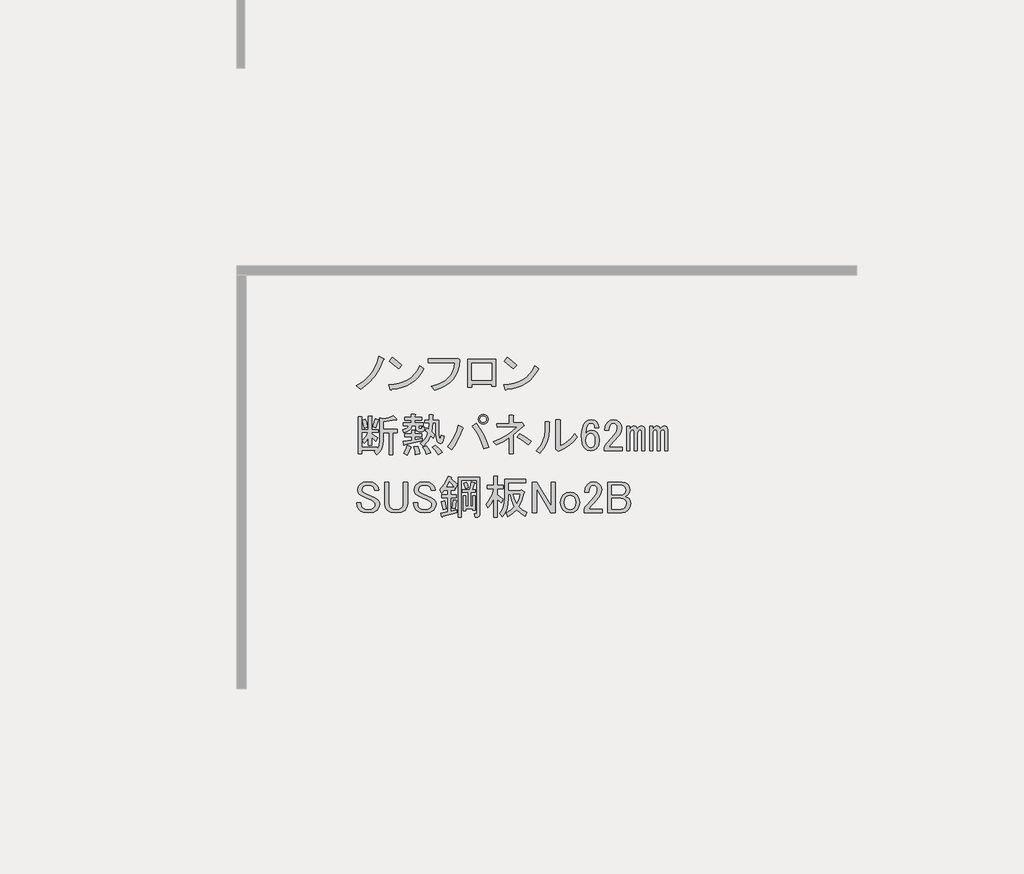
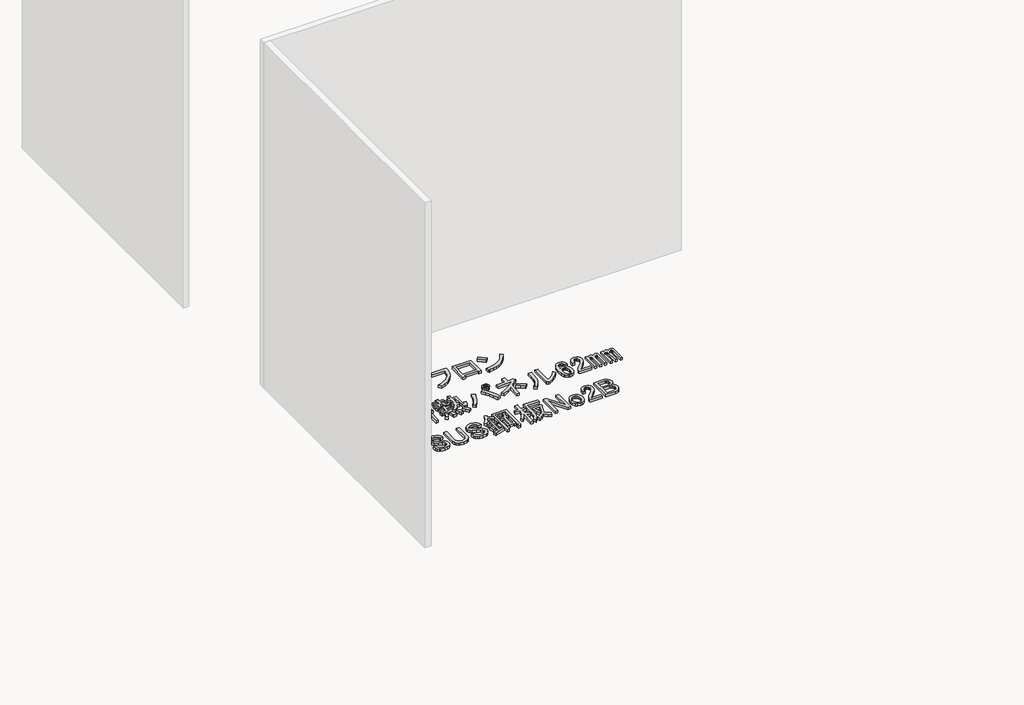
# One storey, part 86 of 117: 1 proxy.
"""IFC4 building model written with IfcOpenShell, lengths in millimetres."""

from ifc_helpers import new_model, si_unit, frame, origin, place, context, project, spatial, polyline, outline, extrude, element, save

model = new_model("IFC4")

# Units and contexts
model_context = context("Model", 3, world=origin())
ifc_project = project(units=[si_unit("LENGTHUNIT", "METRE", prefix="MILLI")], contexts=[model_context])

# Site, building, storey
site = spatial("IfcSite", under=ifc_project)
building = spatial("IfcBuilding", under=site)
storey = spatial("IfcBuildingStorey", under=building, Name="レベル 1", Elevation=500.0)

# Proxy
placement = place(None, origin())
element("IfcBuildingElementProxy", 1, Name="200㎜\u3000MS Pゴシック", ObjectType="200㎜\u3000MS Pゴシック", at=placement, inside=storey, context=model_context, shape_type="SweptSolid", body=[
    extrude(outline(polyline([(8943.6706985, 3392.9503118), (8918.0952502, 3333.1784775), (8889.646156, 3287.2001434), (8847.9782907, 3241.7965385), (8798.8389462, 3204.439142), (8771.2519457, 3226.2788507), (8818.9544673, 3256.7394971), (8858.6107805, 3295.2463519), (8875.9963381, 3319.1694538), (8891.3703435, 3347.2593423), (8904.7327969, 3379.5160173), (8916.0836981, 3415.9394788), (8947.1190736, 3402.1459786), (8950.2800841, 3397.5481452), (8943.6706985, 3392.9503118)])), frame((0.0, 0.0, 500.0), z_axis=(0.0, 0.0, 1.0), x_axis=(1.0, 0.0, 0.0)), (0.0, 0.0, 1.0), 25.0),
    extrude(outline(polyline([(9043.3977052, 3337.7763109), (8984.7753292, 3384.9041033), (9004.3161212, 3409.0427287), (9031.6157571, 3389.2145721), (9065.2374138, 3359.6160196), (9043.3977052, 3337.7763109)])), frame((0.0, 0.0, 500.0), z_axis=(0.0, 0.0, 1.0), x_axis=(1.0, 0.0, 0.0)), (0.0, 0.0, 1.0), 25.0),
    extrude(outline(polyline([(9205.4713328, 3337.7763109), (9188.947869, 3308.034076), (9169.8381239, 3282.0275808), (9148.1420975, 3259.7568252), (9123.8597898, 3241.2218093), (9096.9912008, 3226.422533), (9067.5363306, 3215.3589964), (9035.495179, 3208.0311994), (9000.8677461, 3204.439142), (8995.1204544, 3196.3929336), (8989.3731626, 3202.1402253), (8980.1774958, 3232.0261425), (9016.0082679, 3234.7022252), (9048.7857912, 3241.0062859), (9078.5100658, 3250.9383244), (9105.1810916, 3264.4983409), (9128.7988687, 3281.6863354), (9149.363397, 3302.5023077), (9166.8746766, 3326.946258), (9181.3327074, 3355.0181862), (9205.4713328, 3337.7763109)])), frame((0.0, 0.0, 500.0), z_axis=(0.0, 0.0, 1.0), x_axis=(1.0, 0.0, 0.0)), (0.0, 0.0, 1.0), 25.0),
    extrude(outline(polyline([(9256.2314136, 3222.8304757), (9290.014713, 3232.5110702), (9319.5234641, 3244.8857078), (9344.757667, 3259.9543884), (9365.7173217, 3277.717112), (9382.402428, 3298.1738786), (9394.8129862, 3321.3246882), (9402.9489961, 3347.1695409), (9406.8104577, 3375.7084365), (9234.3917049, 3375.7084365), (9234.3917049, 3400.9965202), (9409.1093744, 3400.9965202), (9425.2017914, 3404.4448953), (9437.8458332, 3392.9503118), (9434.325617, 3356.4550091), (9426.0638851, 3323.4080815), (9413.0606375, 3293.8095289), (9395.3158742, 3267.6593514), (9372.8295952, 3244.957549), (9345.6018005, 3225.7041216), (9313.6324901, 3209.8990692), (9276.921664, 3197.5423919), (9256.2314136, 3222.8304757)])), frame((0.0, 0.0, 500.0), z_axis=(0.0, 0.0, 1.0), x_axis=(1.0, 0.0, 0.0)), (0.0, 0.0, 1.0), 25.0),
    extrude(outline(polyline([(9670.955987, 3223.979934), (9644.5184449, 3223.979934), (9644.5184449, 3236.6239759), (9516.9285679, 3236.6239759), (9516.9285679, 3218.2326423), (9490.4910258, 3218.2326423), (9490.4910258, 3397.5481452), (9670.955987, 3397.5481452), (9670.955987, 3223.979934)]), holes=[polyline([(9516.9285679, 3372.2600614), (9516.9285679, 3261.9120596), (9644.5184449, 3261.9120596), (9644.5184449, 3372.2600614), (9516.9285679, 3372.2600614)])]), frame((0.0, 0.0, 500.0), z_axis=(0.0, 0.0, 1.0), x_axis=(1.0, 0.0, 0.0)), (0.0, 0.0, 1.0), 25.0),
    extrude(outline(polyline([(9947.0099049, 3337.7763109), (9930.4864411, 3308.034076), (9911.376696, 3282.0275808), (9889.6806696, 3259.7568252), (9865.3983619, 3241.2218093), (9838.5297729, 3226.422533), (9809.0749026, 3215.3589964), (9777.0337511, 3208.0311994), (9742.4063182, 3204.439142), (9736.6590264, 3196.3929336), (9730.9117347, 3202.1402253), (9721.7160679, 3232.0261425), (9757.5468399, 3234.7022252), (9790.3243633, 3241.0062859), (9820.0486378, 3250.9383244), (9846.7196637, 3264.4983409), (9870.3374407, 3281.6863354), (9890.9019691, 3302.5023077), (9908.4132486, 3326.946258), (9922.8712795, 3355.0181862), (9947.0099049, 3337.7763109)])), frame((0.0, 0.0, 500.0), z_axis=(0.0, 0.0, 1.0), x_axis=(1.0, 0.0, 0.0)), (0.0, 0.0, 1.0), 25.0),
    extrude(outline(polyline([(9784.9362772, 3337.7763109), (9726.3139013, 3384.9041033), (9745.8546933, 3409.0427287), (9773.1543291, 3389.2145721), (9806.7759859, 3359.6160196), (9784.9362772, 3337.7763109)])), frame((0.0, 0.0, 500.0), z_axis=(0.0, 0.0, 1.0), x_axis=(1.0, 0.0, 0.0)), (0.0, 0.0, 1.0), 25.0),
    extrude(outline(polyline([(8877.0021141, 2960.7654779), (8894.2439894, 3013.6405621), (8914.9342397, 3007.8932704), (8916.6584273, 3004.7322599), (8912.635323, 3002.1459786), (8895.3934478, 2953.8687278), (8877.0021141, 2960.7654779)])), frame((0.0, 0.0, 500.0), z_axis=(0.0, 0.0, 1.0), x_axis=(1.0, 0.0, 0.0)), (0.0, 0.0, 1.0), 25.0),
    extrude(outline(polyline([(9031.0295333, 3009.0427287), (9029.3053458, 3004.4448953), (9021.8338665, 3006.743812), (8944.8201569, 2994.0997701), (8944.8201569, 2944.673061), (9036.7768251, 2944.673061), (9036.7768251, 2922.8333523), (9005.7414495, 2922.8333523), (9005.7414495, 2782.5994334), (8982.7522825, 2782.5994334), (8982.7522825, 2922.8333523), (8944.8201569, 2922.8333523), (8944.8201569, 2873.4066432), (8942.2338756, 2845.6041193), (8934.4750317, 2820.8189236), (8921.5436253, 2799.051056), (8903.4396562, 2780.3005167), (8886.1977809, 2799.8413086), (8896.5429061, 2809.0369755), (8806.8851546, 2809.0369755), (8806.8851546, 2787.1972668), (8783.8959876, 2787.1972668), (8783.8959876, 3026.284604), (8805.7356963, 3026.284604), (8810.6208943, 3023.9856873), (8806.8851546, 3019.3878539), (8806.8851546, 2943.5236026), (8849.4151137, 2943.5236026), (8849.4151137, 3030.8824374), (8867.8064473, 3030.8824374), (8872.6916453, 3028.5835207), (8868.9559057, 3023.9856873), (8868.9559057, 2943.5236026), (8912.635323, 2943.5236026), (8912.635323, 2925.132269), (8868.9559057, 2925.132269), (8868.9559057, 2915.9366022), (8909.186948, 2889.4990601), (8895.3934478, 2867.6593514), (8868.9559057, 2894.0968935), (8868.9559057, 2841.2218093), (8849.4151137, 2841.2218093), (8849.4151137, 2889.4990601), (8836.1963426, 2869.6709035), (8821.8281132, 2853.8658512), (8809.1840713, 2872.2571848), (8831.02378, 2896.3958102), (8848.2656553, 2925.132269), (8806.8851546, 2925.132269), (8806.8851546, 2830.8766841), (8904.5891146, 2830.8766841), (8904.5891146, 2817.0831839), (8917.520521, 2841.2218093), (8921.8309898, 2874.5561015), (8921.8309898, 3019.3878539), (8943.6706985, 3013.6405621), (8979.8786366, 3021.1120414), (9010.339283, 3034.3308125), (9031.0295333, 3009.0427287)])), frame((0.0, 0.0, 500.0), z_axis=(0.0, 0.0, 1.0), x_axis=(1.0, 0.0, 0.0)), (0.0, 0.0, 1.0), 25.0),
    extrude(outline(polyline([(8822.9775716, 2952.7192695), (8810.3335297, 3003.2954369), (8829.8743217, 3010.1921871), (8837.6331656, 2986.0535617), (8842.5183636, 2959.6160196), (8822.9775716, 2952.7192695)])), frame((0.0, 0.0, 500.0), z_axis=(0.0, 0.0, 1.0), x_axis=(1.0, 0.0, 0.0)), (0.0, 0.0, 1.0), 25.0),
    extrude(outline(polyline([(9121.8367431, 2832.0261425), (9125.2851182, 2827.1409445), (9119.5378264, 2823.979934), (9109.7674304, 2798.4044857), (9098.8475761, 2779.1510583), (9075.858409, 2790.6456418), (9088.5024509, 2814.209538), (9098.8475761, 2841.2218093), (9121.8367431, 2832.0261425)])), frame((0.0, 0.0, 500.0), z_axis=(0.0, 0.0, 1.0), x_axis=(1.0, 0.0, 0.0)), (0.0, 0.0, 1.0), 25.0),
    extrude(outline(polyline([(9166.6656188, 2836.6239759), (9176.7233794, 2809.32434), (9181.6085774, 2787.1972668), (9152.8721186, 2781.449975), (9150.2858373, 2803.0023191), (9142.5269934, 2833.1756008), (9166.6656188, 2836.6239759)])), frame((0.0, 0.0, 500.0), z_axis=(0.0, 0.0, 1.0), x_axis=(1.0, 0.0, 0.0)), (0.0, 0.0, 1.0), 25.0),
    extrude(outline(polyline([(9281.611454, 2842.3712677), (9306.3248086, 2821.1062881), (9325.2908714, 2796.3929336), (9298.8533293, 2781.449975), (9279.5999019, 2811.0485276), (9260.9212037, 2830.8766841), (9281.611454, 2842.3712677)])), frame((0.0, 0.0, 500.0), z_axis=(0.0, 0.0, 1.0), x_axis=(1.0, 0.0, 0.0)), (0.0, 0.0, 1.0), 25.0),
    extrude(outline(polyline([(9222.9890781, 2783.7488917), (9214.655505, 2808.4622463), (9201.1493694, 2829.7272258), (9221.8396197, 2837.7734343), (9238.7941304, 2816.2210902), (9250.5760785, 2792.9445585), (9222.9890781, 2783.7488917)])), frame((0.0, 0.0, 500.0), z_axis=(0.0, 0.0, 1.0), x_axis=(1.0, 0.0, 0.0)), (0.0, 0.0, 1.0), 25.0),
    extrude(outline(polyline([(9083.9046175, 2846.9691011), (9081.8930654, 2842.0839031), (9078.1573257, 2843.520726), (9072.410034, 2867.6593514), (9127.5840349, 2875.7055599), (9127.5840349, 2898.6947269), (9083.9046175, 2898.6947269), (9083.9046175, 2917.0860605), (9127.5840349, 2917.0860605), (9127.5840349, 2940.0752276), (9145.9753685, 2940.0752276), (9150.8605665, 2937.7763109), (9147.1248268, 2933.1784775), (9147.1248268, 2917.0860605), (9191.9537026, 2917.0860605), (9191.9537026, 2898.6947269), (9147.1248268, 2898.6947269), (9147.1248268, 2879.1539349), (9197.7009943, 2888.3496017), (9197.7009943, 2872.2571848), (9083.9046175, 2846.9691011)])), frame((0.0, 0.0, 500.0), z_axis=(0.0, 0.0, 1.0), x_axis=(1.0, 0.0, 0.0)), (0.0, 0.0, 1.0), 25.0),
    extrude(outline(polyline([(9154.021577, 2968.8116864), (9128.7334932, 2968.8116864), (9124.1356598, 2951.3542877), (9113.7905346, 2938.0636755), (9097.6981177, 2928.9398498), (9075.858409, 2923.9828107), (9071.2605756, 2943.5236026), (9096.5486594, 2952.1445403), (9104.0201386, 2959.4723373), (9108.0432429, 2968.8116864), (9072.410034, 2968.8116864), (9072.410034, 2987.20302), (9126.4345765, 2987.20302), (9126.4345765, 3004.4448953), (9082.7551591, 3004.4448953), (9082.7551591, 3022.8362289), (9126.4345765, 3022.8362289), (9126.4345765, 3041.2275626), (9148.2742852, 3041.2275626), (9153.1594832, 3038.9286459), (9149.4237436, 3034.3308125), (9149.4237436, 3022.8362289), (9191.9537026, 3022.8362289), (9191.9537026, 3004.4448953), (9149.4237436, 3004.4448953), (9149.4237436, 2987.20302), (9202.2988277, 2987.20302), (9202.2988277, 2968.8116864), (9173.5623689, 2968.8116864), (9173.5623689, 2956.1676445), (9174.9991919, 2950.9950819), (9179.3096607, 2949.2708944), (9189.6547859, 2949.2708944), (9193.3905255, 2952.4319049), (9193.1031609, 2961.9149363), (9212.6439529, 2959.6160196), (9209.770307, 2938.0636755), (9204.4540622, 2932.6755894), (9196.551536, 2930.8795608), (9172.4129106, 2930.8795608), (9158.6194104, 2935.7647588), (9154.021577, 2950.4203528), (9154.021577, 2968.8116864)])), frame((0.0, 0.0, 500.0), z_axis=(0.0, 0.0, 1.0), x_axis=(1.0, 0.0, 0.0)), (0.0, 0.0, 1.0), 25.0),
    extrude(outline(polyline([(9285.0598291, 2986.0535617), (9263.2201204, 2986.0535617), (9258.622287, 2928.5806441), (9278.163079, 2910.1893104), (9267.8179538, 2888.3496017), (9251.7255369, 2904.4420187), (9232.4721095, 2866.7972576), (9202.2988277, 2834.3250592), (9185.0569525, 2855.0153095), (9200.1435933, 2866.9409399), (9213.2186821, 2882.0275808), (9224.2822187, 2900.2752321), (9233.3342033, 2921.683894), (9216.092328, 2936.6268525), (9224.1385364, 2953.8687278), (9237.9320367, 2943.5236026), (9240.2309534, 2986.0535617), (9212.6439529, 2986.0535617), (9212.6439529, 3004.4448953), (9240.2309534, 3004.4448953), (9240.2309534, 3038.9286459), (9262.0706621, 3038.9286459), (9266.95586, 3036.6297292), (9263.2201204, 3032.0318957), (9263.2201204, 3004.4448953), (9304.6006211, 3004.4448953), (9304.6006211, 2907.8903937), (9308.0489961, 2883.7517683), (9311.2818477, 2881.7402162), (9314.0836525, 2884.9012267), (9318.3941213, 2906.7409354), (9337.9349133, 2899.8441853), (9333.408921, 2873.0474374), (9325.578236, 2857.0268616), (9314.4428582, 2851.7824579), (9300.0027877, 2857.3142262), (9293.4652433, 2864.6420232), (9288.7955687, 2876.280289), (9285.0598291, 2912.4882271), (9285.0598291, 2986.0535617)])), frame((0.0, 0.0, 500.0), z_axis=(0.0, 0.0, 1.0), x_axis=(1.0, 0.0, 0.0)), (0.0, 0.0, 1.0), 25.0),
    extrude(outline(polyline([(9543.6879583, 2983.754645), (9570.3410238, 2947.0438188), (9592.8273029, 2909.3272167), (9611.1467953, 2870.6048384), (9625.2995013, 2830.8766841), (9594.2641258, 2820.531559), (9578.8182792, 2863.6362472), (9561.2171982, 2902.143102), (9541.4608827, 2936.0521234), (9519.5493329, 2965.3633113), (9543.6879583, 2983.754645)])), frame((0.0, 0.0, 500.0), z_axis=(0.0, 0.0, 1.0), x_axis=(1.0, 0.0, 0.0)), (0.0, 0.0, 1.0), 25.0),
    extrude(outline(polyline([(9456.3291235, 2957.3171029), (9460.3522278, 2951.8571757), (9454.0302068, 2946.9719777), (9442.1045764, 2911.5542922), (9427.0179356, 2877.717112), (9408.7702842, 2845.460437), (9387.3616224, 2814.7842672), (9360.9240803, 2832.0261425), (9384.1287708, 2863.4925649), (9403.1666748, 2896.9705394), (9418.0377922, 2932.460066), (9428.7421231, 2969.9611447), (9456.3291235, 2957.3171029)])), frame((0.0, 0.0, 500.0), z_axis=(0.0, 0.0, 1.0), x_axis=(1.0, 0.0, 0.0)), (0.0, 0.0, 1.0), 25.0),
    extrude(outline(polyline([(9589.6662924, 2978.0073532), (9577.0222505, 2980.3062699), (9566.6771253, 2987.20302), (9559.7803752, 2997.5481452), (9557.4814585, 3010.1921871), (9559.7803752, 3022.8362289), (9566.6771253, 3033.1813541), (9577.0222505, 3040.0781042), (9589.6662924, 3042.3770209), (9602.3103343, 3040.0781042), (9612.6554594, 3033.1813541), (9619.5522095, 3022.8362289), (9621.8511262, 3010.1921871), (9619.5522095, 2997.5481452), (9612.6554594, 2987.20302), (9602.3103343, 2980.3062699), (9589.6662924, 2978.0073532)]), holes=[polyline([(9589.6662924, 2989.5019367), (9597.9998654, 2990.9387597), (9604.609251, 2995.2492285), (9608.9197198, 3001.858614), (9610.3565427, 3010.1921871), (9608.9197198, 3018.5257601), (9604.609251, 3025.1351456), (9597.9998654, 3029.4456145), (9589.6662924, 3030.8824374), (9581.3327193, 3029.4456145), (9574.7233338, 3025.1351456), (9570.412865, 3018.5257601), (9568.976042, 3010.1921871), (9570.412865, 3001.858614), (9574.7233338, 2995.2492285), (9581.3327193, 2990.9387597), (9589.6662924, 2989.5019367)])]), frame((0.0, 0.0, 500.0), z_axis=(0.0, 0.0, 1.0), x_axis=(1.0, 0.0, 0.0)), (0.0, 0.0, 1.0), 25.0),
    extrude(outline(polyline([(9879.3297971, 2844.6701844), (9842.2597652, 2873.9813723), (9809.2128376, 2895.2463519), (9826.4547129, 2917.0860605), (9865.2489323, 2893.8095289), (9898.8705891, 2867.6593514), (9879.3297971, 2844.6701844)])), frame((0.0, 0.0, 500.0), z_axis=(0.0, 0.0, 1.0), x_axis=(1.0, 0.0, 0.0)), (0.0, 0.0, 1.0), 25.0),
    extrude(outline(polyline([(9833.351463, 2988.3524784), (9840.2482131, 2990.6513951), (9852.892255, 2973.4095198), (9854.0417134, 2967.3748634), (9848.2944216, 2965.3633113), (9785.0742122, 2909.0398521), (9785.0742122, 2788.3467251), (9758.6366701, 2788.3467251), (9758.6366701, 2890.6485184), (9718.4056278, 2866.5098931), (9673.5767521, 2844.6701844), (9654.0359601, 2865.3604347), (9699.5832473, 2884.8293855), (9740.8200657, 2907.6030291), (9777.7464152, 2933.6813655), (9810.362296, 2963.0643946), (9680.4735022, 2957.3171029), (9677.0251271, 2982.6051866), (9758.6366701, 2984.9041033), (9758.6366701, 3036.6297292), (9781.6258372, 3036.6297292), (9787.6604935, 3033.1813541), (9785.0742122, 3027.4340623), (9785.0742122, 2986.0535617), (9833.351463, 2988.3524784)])), frame((0.0, 0.0, 500.0), z_axis=(0.0, 0.0, 1.0), x_axis=(1.0, 0.0, 0.0)), (0.0, 0.0, 1.0), 25.0),
    extrude(outline(polyline([(9932.296838, 2806.7380587), (9957.4412394, 2835.9774056), (9975.4015262, 2868.5214452), (9986.1776982, 2904.3701775), (9989.7697556, 2943.5236026), (9989.7697556, 2995.2492285), (10013.908381, 2995.2492285), (10019.6556727, 2991.8008534), (10016.2072977, 2986.0535617), (10016.2072977, 2944.673061), (10012.3997169, 2898.9102504), (10000.9769745, 2858.17632), (9981.9390705, 2822.4712699), (9955.286005, 2791.7951002), (9932.296838, 2806.7380587)])), frame((0.0, 0.0, 500.0), z_axis=(0.0, 0.0, 1.0), x_axis=(1.0, 0.0, 0.0)), (0.0, 0.0, 1.0), 25.0),
    extrude(outline(polyline([(10086.3242571, 2837.7734343), (10111.1094529, 2849.9864292), (10134.8888725, 2867.0846222), (10157.6625161, 2889.0680132), (10179.4303837, 2915.9366022), (10195.5228006, 2894.0968935), (10172.246269, 2866.2943696), (10146.0960914, 2842.6586322), (10117.0722681, 2823.1896814), (10085.1747988, 2807.8875171), (10075.979132, 2803.2896837), (10057.5877983, 2817.0831839), (10059.886715, 2822.8304757), (10059.886715, 3007.8932704), (10084.0253404, 3007.8932704), (10089.7726322, 3004.4448953), (10086.3242571, 2998.6976035), (10086.3242571, 2837.7734343)])), frame((0.0, 0.0, 500.0), z_axis=(0.0, 0.0, 1.0), x_axis=(1.0, 0.0, 0.0)), (0.0, 0.0, 1.0), 25.0),
    extrude(outline(polyline([(10224.2592594, 2902.143102), (10225.9834469, 2931.5261311), (10231.1560095, 2956.4550091), (10239.7769471, 2976.929736), (10251.8462598, 2992.9503118), (10267.3639476, 3003.2954369), (10286.3300104, 3006.743812), (10306.158167, 3003.2954369), (10321.9632193, 2992.9503118), (10333.1704382, 2975.9958011), (10336.9061779, 2955.0181862), (10310.4686358, 2955.0181862), (10308.7444483, 2968.8116864), (10303.5718857, 2978.0073532), (10295.8130418, 2983.1799158), (10286.3300104, 2984.9041033), (10276.846979, 2983.1799158), (10269.0881351, 2978.0073532), (10261.0419266, 2967.0874989), (10255.2946349, 2952.7192695), (10250.6968015, 2913.6376855), (10262.191385, 2928.5806441), (10273.6859685, 2936.3394879), (10287.4794687, 2938.9257692), (10306.4455316, 2935.4773942), (10321.9632193, 2925.132269), (10334.8946258, 2903.5799249), (10339.2050946, 2873.4066432), (10334.6072612, 2842.0839031), (10320.813761, 2819.3821006), (10304.4339794, 2809.0369755), (10282.8816353, 2805.5886004), (10263.0534788, 2809.8990692), (10244.9495097, 2822.8304757), (10235.8975252, 2835.5463587), (10229.431822, 2853.0037574), (10224.2592594, 2902.143102)]), holes=[polyline([(10285.180552, 2918.2355189), (10274.5480623, 2916.2239668), (10265.6397601, 2910.1893104), (10256.1567286, 2895.2463519), (10252.9957182, 2875.7055599), (10256.4440932, 2851.5669345), (10266.7892184, 2834.3250592), (10275.1227915, 2828.2904028), (10284.0310937, 2826.2788507), (10293.5141251, 2828.0030383), (10301.272969, 2833.1756008), (10309.0318128, 2848.405924), (10311.6180941, 2873.4066432), (10309.0318128, 2895.821081), (10301.272969, 2910.1893104), (10293.2267605, 2916.2239668), (10285.180552, 2918.2355189)])]), frame((0.0, 0.0, 500.0), z_axis=(0.0, 0.0, 1.0), x_axis=(1.0, 0.0, 0.0)), (0.0, 0.0, 1.0), 25.0),
    extrude(outline(polyline([(10374.8383035, 2937.7763109), (10379.4361369, 2969.099051), (10393.2296371, 2991.8008534), (10409.6094186, 3003.0080724), (10428.862846, 3006.743812), (10451.5646485, 3003.0080724), (10469.0938884, 2991.8008534), (10480.3011073, 2975.1337073), (10484.0368469, 2955.0181862), (10479.7263781, 2929.1553732), (10466.7949717, 2906.7409354), (10433.4606795, 2868.8088098), (10415.0693458, 2848.1185594), (10401.2758456, 2829.7272258), (10487.485222, 2829.7272258), (10487.485222, 2807.8875171), (10370.2404701, 2807.8875171), (10370.2404701, 2827.4283091), (10376.2751264, 2841.2218093), (10389.7812621, 2859.6131429), (10436.9090545, 2911.3387688), (10451.5646485, 2932.6037483), (10456.4498465, 2955.0181862), (10454.1509298, 2967.662228), (10447.2541797, 2978.0073532), (10439.4953358, 2983.1799158), (10430.0123044, 2984.9041033), (10421.3913668, 2983.1799158), (10413.9198875, 2978.0073532), (10404.4368561, 2961.6275717), (10401.2758456, 2937.7763109), (10374.8383035, 2937.7763109)])), frame((0.0, 0.0, 500.0), z_axis=(0.0, 0.0, 1.0), x_axis=(1.0, 0.0, 0.0)), (0.0, 0.0, 1.0), 25.0),
    extrude(outline(polyline([(10536.9119311, 2806.7380587), (10517.3711392, 2806.7380587), (10517.3711392, 2964.213853), (10536.9119311, 2964.213853), (10536.9119311, 2946.9719777), (10548.9812438, 2962.4896654), (10562.2000149, 2967.662228), (10571.3956817, 2966.2254051), (10578.2924318, 2961.9149363), (10585.1891819, 2948.121436), (10598.1205884, 2962.77703), (10611.626724, 2967.662228), (10619.9602971, 2966.2254051), (10626.5696826, 2961.9149363), (10631.7422452, 2953.2939986), (10633.4664327, 2941.2246859), (10633.4664327, 2806.7380587), (10613.9256407, 2806.7380587), (10613.9256407, 2930.8795608), (10611.3393594, 2940.3625922), (10603.5805156, 2943.5236026), (10593.2353904, 2938.9257692), (10587.200734, 2930.3048316), (10585.1891819, 2920.5344356), (10585.1891819, 2806.7380587), (10565.6483899, 2806.7380587), (10565.6483899, 2930.8795608), (10563.0621086, 2940.3625922), (10555.3032648, 2943.5236026), (10544.9581396, 2938.9257692), (10538.9234833, 2930.3048316), (10536.9119311, 2920.5344356), (10536.9119311, 2806.7380587)])), frame((0.0, 0.0, 500.0), z_axis=(0.0, 0.0, 1.0), x_axis=(1.0, 0.0, 0.0)), (0.0, 0.0, 1.0), 25.0),
    extrude(outline(polyline([(10758.7573931, 2967.662228), (10767.0909661, 2966.2254051), (10773.7003517, 2961.9149363), (10778.8729142, 2953.2939986), (10780.5971018, 2941.2246859), (10780.5971018, 2806.7380587), (10761.0563098, 2806.7380587), (10761.0563098, 2930.8795608), (10758.4700285, 2940.3625922), (10750.7111846, 2943.5236026), (10740.3660594, 2938.9257692), (10734.3314031, 2930.3048316), (10732.319851, 2920.5344356), (10732.319851, 2806.7380587), (10712.779059, 2806.7380587), (10712.779059, 2930.8795608), (10710.1927777, 2940.3625922), (10702.4339338, 2943.5236026), (10692.0888087, 2938.9257692), (10686.0541523, 2930.3048316), (10684.0426002, 2920.5344356), (10684.0426002, 2806.7380587), (10664.5018082, 2806.7380587), (10664.5018082, 2964.213853), (10684.0426002, 2964.213853), (10684.0426002, 2946.9719777), (10696.1119129, 2962.4896654), (10709.3306839, 2967.662228), (10718.5263508, 2966.2254051), (10725.4231009, 2961.9149363), (10732.319851, 2948.121436), (10745.2512574, 2962.77703), (10758.7573931, 2967.662228)])), frame((0.0, 0.0, 500.0), z_axis=(0.0, 0.0, 1.0), x_axis=(1.0, 0.0, 0.0)), (0.0, 0.0, 1.0), 25.0),
    extrude(outline(polyline([(8779.2981542, 2552.7192695), (8783.3212584, 2573.1221552), (8795.3905711, 2590.6513951), (8815.7934569, 2602.7207078), (8844.8172803, 2606.743812), (8876.1400204, 2602.1459786), (8898.8418228, 2588.3524784), (8910.9111355, 2570.8232385), (8914.9342397, 2550.4203528), (8888.4966976, 2550.4203528), (8886.1977809, 2563.0643946), (8879.3010308, 2573.4095198), (8866.0822598, 2581.1683637), (8847.116197, 2583.754645), (8826.7133112, 2581.4557283), (8813.7819048, 2574.5589781), (8807.7472484, 2565.9380405), (8805.7356963, 2556.1676445), (8810.3335297, 2541.2246859), (8831.02378, 2529.7301024), (8890.7956143, 2503.2925603), (8908.0374896, 2491.7979768), (8917.520521, 2478.0044766), (8920.6815315, 2461.9120596), (8916.6584273, 2440.6470801), (8904.5891146, 2422.8304757), (8894.6031951, 2415.2871552), (8881.8873121, 2409.8990692), (8848.2656553, 2405.5886004), (8814.6439985, 2410.761163), (8801.0660217, 2417.2268662), (8789.6432794, 2426.2788507), (8778.4360604, 2444.6701844), (8774.7003208, 2469.9582681), (8801.1378629, 2469.9582681), (8803.4367796, 2452.1416637), (8810.3335297, 2440.072351), (8826.4259466, 2430.5893196), (8849.4151137, 2427.4283091), (8870.3927286, 2430.301955), (8885.0483226, 2438.9228926), (8891.9450727, 2448.1185594), (8894.2439894, 2457.3142262), (8892.5198019, 2466.7972576), (8887.3472393, 2474.5561015), (8868.9559057, 2486.050685), (8839.0699885, 2499.8441853), (8805.7356963, 2514.7871438), (8789.6432794, 2525.132269), (8781.8844355, 2537.2015817), (8779.2981542, 2552.7192695)])), frame((0.0, 0.0, 500.0), z_axis=(0.0, 0.0, 1.0), x_axis=(1.0, 0.0, 0.0)), (0.0, 0.0, 1.0), 25.0),
    extrude(outline(polyline([(8954.7054987, 2604.4448953), (8981.1430408, 2604.4448953), (8981.1430408, 2466.5098931), (8983.7293221, 2451.8542991), (8991.488166, 2440.072351), (9007.0058537, 2430.5893196), (9028.2708332, 2427.4283091), (9049.5358128, 2430.5893196), (9065.0535005, 2440.072351), (9072.8123444, 2451.8542991), (9075.3986257, 2466.5098931), (9075.3986257, 2604.4448953), (9101.8361678, 2604.4448953), (9101.8361678, 2465.3604347), (9097.8130635, 2442.3712677), (9085.7437508, 2423.979934), (9075.2549434, 2415.9337256), (9062.1798546, 2410.1864338), (9028.2708332, 2405.5886004), (8994.3618119, 2410.1864338), (8981.2867231, 2415.9337256), (8970.7979156, 2423.979934), (8958.7286029, 2442.3712677), (8954.7054987, 2465.3604347), (8954.7054987, 2604.4448953)])), frame((0.0, 0.0, 500.0), z_axis=(0.0, 0.0, 1.0), x_axis=(1.0, 0.0, 0.0)), (0.0, 0.0, 1.0), 25.0),
    extrude(outline(polyline([(9144.1822135, 2552.7192695), (9148.2053177, 2573.1221552), (9160.2746304, 2590.6513951), (9180.6775161, 2602.7207078), (9209.7013395, 2606.743812), (9241.0240796, 2602.1459786), (9263.7258821, 2588.3524784), (9275.7951948, 2570.8232385), (9279.818299, 2550.4203528), (9253.3807569, 2550.4203528), (9251.0818402, 2563.0643946), (9244.1850901, 2573.4095198), (9230.966319, 2581.1683637), (9212.0002562, 2583.754645), (9191.5973705, 2581.4557283), (9178.665964, 2574.5589781), (9172.6313077, 2565.9380405), (9170.6197556, 2556.1676445), (9175.217589, 2541.2246859), (9195.9078393, 2529.7301024), (9255.6796736, 2503.2925603), (9272.9215489, 2491.7979768), (9282.4045803, 2478.0044766), (9285.5655908, 2461.9120596), (9281.5424865, 2440.6470801), (9269.4731738, 2422.8304757), (9259.4872544, 2415.2871552), (9246.7713714, 2409.8990692), (9213.1497146, 2405.5886004), (9179.5280578, 2410.761163), (9165.950081, 2417.2268662), (9154.5273386, 2426.2788507), (9143.3201197, 2444.6701844), (9139.5843801, 2469.9582681), (9166.0219222, 2469.9582681), (9168.3208389, 2452.1416637), (9175.217589, 2440.072351), (9191.3100059, 2430.5893196), (9214.2991729, 2427.4283091), (9235.2767879, 2430.301955), (9249.9323819, 2438.9228926), (9256.829132, 2448.1185594), (9259.1280487, 2457.3142262), (9257.4038611, 2466.7972576), (9252.2312986, 2474.5561015), (9233.8399649, 2486.050685), (9203.9540478, 2499.8441853), (9170.6197556, 2514.7871438), (9154.5273386, 2525.132269), (9146.7684948, 2537.2015817), (9144.1822135, 2552.7192695)])), frame((0.0, 0.0, 500.0), z_axis=(0.0, 0.0, 1.0), x_axis=(1.0, 0.0, 0.0)), (0.0, 0.0, 1.0), 25.0),
    extrude(outline(polyline([(9413.8451429, 2565.3633113), (9372.4646422, 2609.0427287), (9350.6249335, 2569.9611447), (9405.7989344, 2569.9611447), (9405.7989344, 2551.5698111), (9379.3613923, 2551.5698111), (9379.3613923, 2522.8333523), (9417.2935179, 2522.8333523), (9417.2935179, 2504.4420187), (9379.3613923, 2504.4420187), (9379.3613923, 2417.0831839), (9418.4429763, 2427.4283091), (9420.741893, 2407.8875171), (9328.7852248, 2382.5994334), (9326.4863081, 2376.8521416), (9321.8884747, 2380.3005167), (9314.9917246, 2403.2896837), (9359.8206003, 2412.4853505), (9359.8206003, 2504.4420187), (9321.8884747, 2504.4420187), (9321.8884747, 2522.8333523), (9359.8206003, 2522.8333523), (9359.8206003, 2551.5698111), (9337.9808916, 2551.5698111), (9323.037933, 2533.1784775), (9310.3938912, 2553.8687278), (9338.5556208, 2591.5134888), (9363.2689754, 2642.3770209), (9385.1086841, 2636.6297292), (9388.5570591, 2632.8939895), (9382.8097674, 2630.8824374), (9381.660309, 2627.4340623), (9426.4891847, 2589.5019367), (9413.8451429, 2565.3633113)])), frame((0.0, 0.0, 500.0), z_axis=(0.0, 0.0, 1.0), x_axis=(1.0, 0.0, 0.0)), (0.0, 0.0, 1.0), 25.0),
    extrude(outline(polyline([(9481.6631856, 2602.1459786), (9488.8473003, 2586.9156554), (9494.3072275, 2566.5127697), (9477.0653522, 2560.7654779), (9465.5707687, 2597.5481452), (9481.6631856, 2602.1459786)])), frame((0.0, 0.0, 500.0), z_axis=(0.0, 0.0, 1.0), x_axis=(1.0, 0.0, 0.0)), (0.0, 0.0, 1.0), 25.0),
    extrude(outline(polyline([(9534.5382698, 2600.9965202), (9537.1245511, 2597.5481452), (9531.0898948, 2594.0997701), (9518.4458529, 2556.1676445), (9539.1361032, 2556.1676445), (9539.1361032, 2537.7763109), (9508.1007277, 2537.7763109), (9508.1007277, 2449.2680178), (9523.0436863, 2449.2680178), (9523.0436863, 2517.0860605), (9539.1361032, 2517.0860605), (9539.1361032, 2422.8304757), (9523.0436863, 2422.8304757), (9523.0436863, 2430.8766841), (9477.0653522, 2430.8766841), (9477.0653522, 2418.2326423), (9460.9729353, 2418.2326423), (9460.9729353, 2514.7871438), (9477.0653522, 2514.7871438), (9477.0653522, 2449.2680178), (9492.0083108, 2449.2680178), (9492.0083108, 2537.7763109), (9456.3751019, 2537.7763109), (9456.3751019, 2556.1676445), (9502.353436, 2556.1676445), (9512.6985611, 2605.5943537), (9534.5382698, 2600.9965202)])), frame((0.0, 0.0, 500.0), z_axis=(0.0, 0.0, 1.0), x_axis=(1.0, 0.0, 0.0)), (0.0, 0.0, 1.0), 25.0),
    extrude(outline(polyline([(9428.7881014, 2634.3308125), (9569.0220204, 2634.3308125), (9569.0220204, 2394.0940169), (9565.2862807, 2382.8867979), (9554.0790618, 2379.1510583), (9537.9866449, 2379.1510583), (9533.3888115, 2400.990767), (9544.883395, 2400.990767), (9548.33177, 2402.1402253), (9549.4812284, 2405.5886004), (9549.4812284, 2615.9394788), (9448.3288934, 2615.9394788), (9448.3288934, 2376.8521416), (9428.7881014, 2376.8521416), (9428.7881014, 2634.3308125)])), frame((0.0, 0.0, 500.0), z_axis=(0.0, 0.0, 1.0), x_axis=(1.0, 0.0, 0.0)), (0.0, 0.0, 1.0), 25.0),
    extrude(outline(polyline([(9417.2935179, 2486.050685), (9419.8797992, 2482.8896746), (9416.1440596, 2480.3033933), (9408.0978511, 2433.1756008), (9389.7065175, 2435.4745175), (9395.4538092, 2489.4990601), (9417.2935179, 2486.050685)])), frame((0.0, 0.0, 500.0), z_axis=(0.0, 0.0, 1.0), x_axis=(1.0, 0.0, 0.0)), (0.0, 0.0, 1.0), 25.0),
    extrude(outline(polyline([(9340.2798083, 2484.9012267), (9351.7743918, 2433.1756008), (9331.0841415, 2427.4283091), (9319.589558, 2479.1539349), (9340.2798083, 2484.9012267)])), frame((0.0, 0.0, 500.0), z_axis=(0.0, 0.0, 1.0), x_axis=(1.0, 0.0, 0.0)), (0.0, 0.0, 1.0), 25.0),
    extrude(outline(polyline([(9740.2913148, 2405.5886004), (9769.0277736, 2422.8304757), (9790.8674823, 2444.6701844), (9773.0508779, 2486.6254142), (9763.2804819, 2527.4311857), (9750.63644, 2527.4311857), (9750.63644, 2503.2925603), (9748.193841, 2461.5528539), (9740.866044, 2427.1409445), (9728.653049, 2400.0568321), (9711.554856, 2380.3005167), (9697.7613558, 2403.2896837), (9710.8364446, 2420.6752413), (9720.1757937, 2442.9459968), (9725.7794031, 2470.1019504), (9727.647273, 2502.143102), (9727.647273, 2622.8362289), (9864.4328169, 2622.8362289), (9864.4328169, 2600.9965202), (9750.63644, 2600.9965202), (9750.63644, 2549.2708944), (9829.9490663, 2549.2708944), (9835.6963581, 2555.0181862), (9855.23715, 2541.2246859), (9856.673973, 2537.4889463), (9851.788775, 2533.1784775), (9839.4320977, 2486.6254142), (9820.7533995, 2445.8196427), (9839.7194623, 2427.4283091), (9871.329567, 2409.0369755), (9862.1339002, 2384.8983501), (9834.2595351, 2400.990767), (9805.8104409, 2426.2788507), (9781.3844509, 2401.8528608), (9749.4869817, 2381.449975), (9740.2913148, 2405.5886004)]), holes=[polyline([(9785.1201906, 2527.4311857), (9793.166399, 2494.3842581), (9805.8104409, 2466.5098931), (9818.4544828, 2492.6600706), (9826.5006912, 2527.4311857), (9785.1201906, 2527.4311857)])]), frame((0.0, 0.0, 500.0), z_axis=(0.0, 0.0, 1.0), x_axis=(1.0, 0.0, 0.0)), (0.0, 0.0, 1.0), 25.0),
    extrude(outline(polyline([(9657.5303135, 2376.8521416), (9657.5303135, 2496.3958102), (9639.713709, 2462.1994242), (9620.7476462, 2440.072351), (9609.2530627, 2460.7626013), (9626.494938, 2483.4644037), (9640.2884382, 2507.8903937), (9650.6335634, 2534.0405712), (9657.5303135, 2561.9149363), (9616.1498128, 2561.9149363), (9616.1498128, 2583.754645), (9657.5303135, 2583.754645), (9657.5303135, 2643.5264793), (9679.3700222, 2643.5264793), (9684.2552202, 2641.2275626), (9680.5194805, 2636.6297292), (9680.5194805, 2583.754645), (9718.4516061, 2583.754645), (9718.4516061, 2561.9149363), (9680.5194805, 2561.9149363), (9680.5194805, 2521.683894), (9718.4516061, 2495.2463519), (9708.106481, 2472.2571848), (9680.5194805, 2495.2463519), (9680.5194805, 2376.8521416), (9657.5303135, 2376.8521416)])), frame((0.0, 0.0, 500.0), z_axis=(0.0, 0.0, 1.0), x_axis=(1.0, 0.0, 0.0)), (0.0, 0.0, 1.0), 25.0),
    extrude(outline(polyline([(9908.1122342, 2604.4448953), (9936.848693, 2604.4448953), (10028.8053612, 2449.2680178), (10028.8053612, 2604.4448953), (10055.2429033, 2604.4448953), (10055.2429033, 2407.8875171), (10026.5064445, 2407.8875171), (9934.5497763, 2563.0643946), (9934.5497763, 2407.8875171), (9908.1122342, 2407.8875171), (9908.1122342, 2604.4448953)])), frame((0.0, 0.0, 500.0), z_axis=(0.0, 0.0, 1.0), x_axis=(1.0, 0.0, 0.0)), (0.0, 0.0, 1.0), 25.0),
    extrude(outline(polyline([(10088.3932822, 2472.2571848), (10093.2784802, 2499.5568207), (10107.9340742, 2521.683894), (10127.1875015, 2534.6153004), (10150.4640332, 2538.9257692), (10173.7405648, 2534.6153004), (10192.9939922, 2521.683894), (10207.6495862, 2499.5568207), (10212.5347842, 2472.2571848), (10207.6495862, 2444.957549), (10192.9939922, 2422.8304757), (10173.7405648, 2409.8990692), (10150.4640332, 2405.5886004), (10127.1875015, 2409.8990692), (10107.9340742, 2422.8304757), (10093.2784802, 2444.957549), (10088.3932822, 2472.2571848)]), holes=[polyline([(10150.4640332, 2518.2355189), (10137.8199913, 2515.9366022), (10127.4748661, 2509.0398521), (10117.129741, 2492.9474352), (10113.6813659, 2472.2571848), (10116.8423764, 2451.8542991), (10126.3254078, 2436.6239759), (10137.5326267, 2428.865132), (10150.4640332, 2426.2788507), (10163.3954396, 2428.865132), (10174.6026586, 2436.6239759), (10184.08569, 2451.8542991), (10187.2467004, 2472.2571848), (10183.7983254, 2492.9474352), (10173.4532002, 2509.0398521), (10163.1080751, 2515.9366022), (10150.4640332, 2518.2355189)])]), frame((0.0, 0.0, 500.0), z_axis=(0.0, 0.0, 1.0), x_axis=(1.0, 0.0, 0.0)), (0.0, 0.0, 1.0), 25.0),
    extrude(outline(polyline([(10245.3633147, 2537.7763109), (10249.9611481, 2569.099051), (10263.7546484, 2591.8008534), (10280.1344299, 2603.0080724), (10299.3878573, 2606.743812), (10322.0896597, 2603.0080724), (10339.6188996, 2591.8008534), (10350.8261185, 2575.1337073), (10354.5618582, 2555.0181862), (10350.2513893, 2529.1553732), (10337.3199829, 2506.7409354), (10303.9856907, 2468.8088098), (10285.594357, 2448.1185594), (10271.8008568, 2429.7272258), (10358.0102332, 2429.7272258), (10358.0102332, 2407.8875171), (10240.7654813, 2407.8875171), (10240.7654813, 2427.4283091), (10246.8001377, 2441.2218093), (10260.3062733, 2459.6131429), (10307.4340657, 2511.3387688), (10322.0896597, 2532.6037483), (10326.9748577, 2555.0181862), (10324.675941, 2567.662228), (10317.7791909, 2578.0073532), (10310.020347, 2583.1799158), (10300.5373156, 2584.9041033), (10291.916378, 2583.1799158), (10284.4448987, 2578.0073532), (10274.9618673, 2561.6275717), (10271.8008568, 2537.7763109), (10245.3633147, 2537.7763109)])), frame((0.0, 0.0, 500.0), z_axis=(0.0, 0.0, 1.0), x_axis=(1.0, 0.0, 0.0)), (0.0, 0.0, 1.0), 25.0),
    extrude(outline(polyline([(10392.4939838, 2604.4448953), (10484.4506519, 2604.4448953), (10505.4282669, 2600.7091557), (10522.3827776, 2589.5019367), (10532.7279027, 2573.4095198), (10536.1762778, 2552.7192695), (10533.0152673, 2535.7647588), (10523.5322359, 2521.683894), (10506.2903606, 2511.3387688), (10528.1300693, 2498.6947269), (10538.4751945, 2483.1770392), (10541.9235696, 2464.2109763), (10537.6131007, 2440.9344447), (10524.6816943, 2421.6810173), (10507.439819, 2411.3358922), (10483.3011936, 2407.8875171), (10392.4939838, 2407.8875171), (10392.4939838, 2604.4448953)]), holes=[polyline([(10418.9315259, 2582.6051866), (10418.9315259, 2521.683894), (10481.0022769, 2521.683894), (10491.6347666, 2523.6954461), (10500.5430689, 2529.7301024), (10507.439819, 2540.3625922), (10509.7387357, 2553.8687278), (10507.439819, 2565.6506759), (10500.5430689, 2575.7084365), (10492.784225, 2580.8809991), (10483.3011936, 2582.6051866), (10418.9315259, 2582.6051866)]), polyline([(10418.9315259, 2499.8441853), (10418.9315259, 2429.7272258), (10477.5539018, 2429.7272258), (10492.784225, 2432.0261425), (10503.9914439, 2438.9228926), (10511.7502878, 2450.4174761), (10514.3365691, 2464.2109763), (10512.0376524, 2478.5792058), (10505.1409023, 2489.4990601), (10493.0715896, 2497.257904), (10477.5539018, 2499.8441853), (10418.9315259, 2499.8441853)])]), frame((0.0, 0.0, 500.0), z_axis=(0.0, 0.0, 1.0), x_axis=(1.0, 0.0, 0.0)), (0.0, 0.0, 1.0), 25.0),
])

save(model, "model.ifc")
